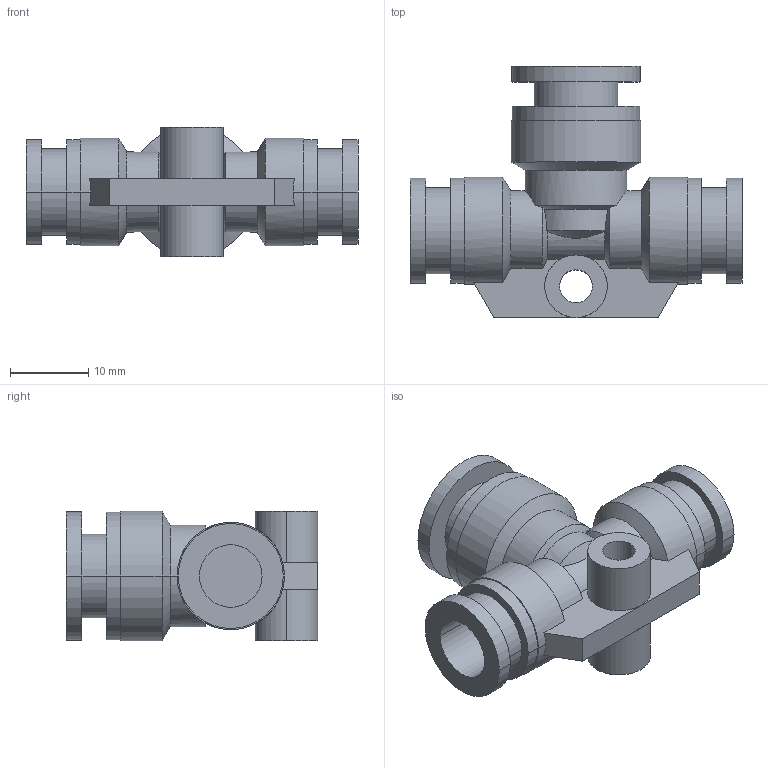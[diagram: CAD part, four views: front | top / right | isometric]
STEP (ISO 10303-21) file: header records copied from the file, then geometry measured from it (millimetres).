
FILE_DESCRIPTION( ( '' ), '1' );
FILE_NAME( 'G:/SMC狟婥/KQ2T08-10A.stp', '2023-03-07T03:26:51', ( '' ), ( '' ), ' ', ' ', ' ' );
FILE_SCHEMA( ( 'CONFIG_CONTROL_DESIGN' ) );
Length unit declared in the file: millimetre
Products named in the file (1): 1
Bounding box: 42.4 x 32.1 x 16.6 mm (x, y, z)
Volume: 5452.3 mm3; surface area: 5483.2 mm2
Topology: 1 solids, 1 shells, 84 faces, 198 edges, 128 vertices
Faces by surface type: cylinder 46, plane 24, cone 14
Entity records: 2670 total; most frequent: CARTESIAN_POINT 659, DIRECTION 436, ORIENTED_EDGE 396, EDGE_CURVE 198, AXIS2_PLACEMENT_3D 185, VERTEX_POINT 128, EDGE_LOOP 98, CIRCLE 96
